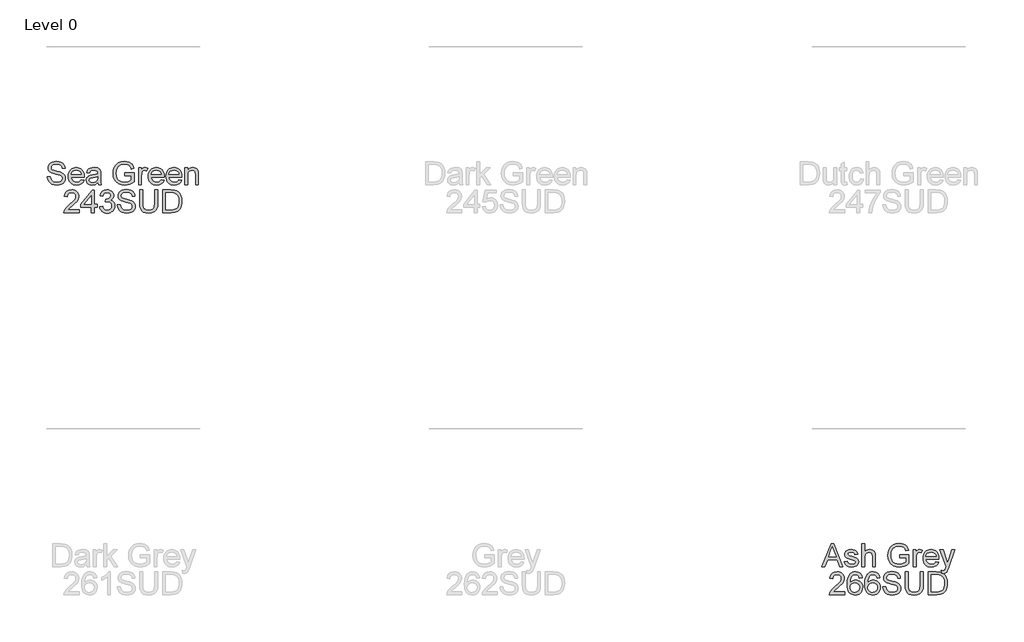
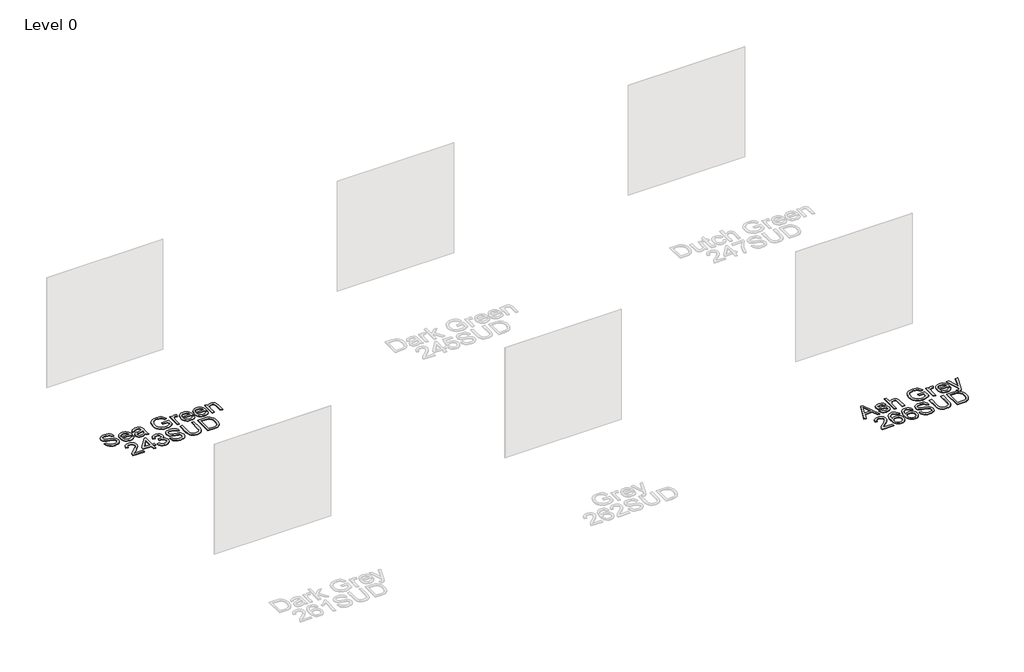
# One storey, part 21 of 37: 2 proxies.
"""IFC4 building model written with IfcOpenShell, lengths in millimetres."""

from ifc_helpers import new_model, si_unit, origin, origin_with_axes, place, context, project, spatial, polyline, outline, extrude, element, save

model = new_model("IFC4")

# Units and contexts
model_context = context("Model", 3, world=origin())
ifc_project = project(units=[si_unit("LENGTHUNIT", "METRE", prefix="MILLI")], contexts=[model_context])

# Site, building, storey
site = spatial("IfcSite", under=ifc_project)
building = spatial("IfcBuilding", under=site)
storey = spatial("IfcBuildingStorey", under=building, Name="Level 0", Elevation=0.0)

# Proxies
placement = place(None, origin())
element("IfcBuildingElementProxy", 1, Name="300mm Arial", ObjectType="300mm Arial", at=placement, inside=storey, context=model_context, shape_type="SweptSolid", body=[
    extrude(outline(polyline([(-439.5248593, -21869.2649241), (-401.853743, -21869.2649241), (-397.5311296, -21890.1698185), (-389.7136372, -21906.9728286), (-377.5183491, -21920.308551), (-360.0623484, -21930.8115819), (-338.7251927, -21937.6265959), (-314.8864394, -21939.8982672), (-293.8987716, -21938.1784189), (-275.5230659, -21933.0188739), (-260.6330421, -21924.8518936), (-250.10242, -21914.1097394), (-243.8392291, -21901.7764955), (-241.7514987, -21888.8362463), (-243.3149972, -21876.2270909), (-248.0054927, -21865.3285868), (-257.5336363, -21856.0303694), (-273.6100795, -21848.222074), (-328.461285, -21833.837888), (-364.4677353, -21824.3189414), (-387.5063452, -21815.2598472), (-406.2591299, -21802.5863125), (-419.548867, -21787.2272392), (-427.467527, -21769.5137211), (-430.1070803, -21749.7768521), (-426.8421276, -21727.7131294), (-417.0472694, -21707.1393289), (-400.9800233, -21689.7017223), (-378.8979065, -21677.0465817), (-352.3920088, -21669.3486509), (-323.0534197, -21666.782674), (-291.2684153, -21669.4682126), (-263.4565365, -21677.5248283), (-240.6110646, -21690.7869742), (-223.725281, -21709.0891034), (-213.038309, -21731.2907818), (-208.789272, -21756.2515752), (-246.4603883, -21756.2515752), (-253.3765698, -21733.7739853), (-267.797544, -21717.5503893), (-290.3303162, -21707.7279401), (-321.5818917, -21704.4537903), (-353.5692312, -21707.6911519), (-375.5133922, -21717.4032365), (-388.205321, -21731.695452), (-392.435964, -21748.6732061), (-389.4377257, -21763.1493626), (-380.4430109, -21774.7928278), (-359.1794316, -21785.2038882), (-318.9331413, -21795.8356779), (-277.3992641, -21805.9340387), (-252.2729238, -21814.7448125), (-230.7978123, -21828.4116286), (-215.8158181, -21845.2790181), (-207.0142413, -21865.1630399), (-204.0803824, -21887.8797531), (-207.4556997, -21911.102304), (-217.5816517, -21932.9452975), (-234.0443709, -21951.7440675), (-256.4299903, -21965.8339479), (-283.3497553, -21974.6355246), (-313.4149114, -21977.5693835), (-350.3226726, -21974.4055984), (-380.7005283, -21964.9142429), (-404.8979665, -21949.0585289), (-423.2644752, -21926.8016682), (-435.0550931, -21899.6887651), (-439.5248593, -21869.2649241)])), origin_with_axes(), (0.0, 0.0, 1.0), 10.0),
    extrude(outline(polyline([(2.6692989, -21906.9360404), (39.6046512, -21911.64493), (26.29652, -21939.4752029), (5.0605318, -21960.2789297), (-23.6250667, -21973.2467701), (-59.2820291, -21977.5693835), (-82.6563314, -21975.7046817), (-103.4830508, -21970.1105761), (-121.7621875, -21960.7870668), (-137.4937413, -21947.7341537), (-150.1442834, -21931.3151204), (-159.1803849, -21911.8932503), (-164.6020458, -21889.4685435), (-166.4092661, -21864.0409998), (-164.5836517, -21837.7512327), (-159.1068085, -21814.5792656), (-149.9787365, -21794.5250983), (-137.1994357, -21777.5887309), (-121.5092686, -21764.133447), (-103.6485977, -21754.5225298), (-83.6174231, -21748.7559796), (-61.4157447, -21746.8337961), (-39.9291369, -21748.751381), (-20.4980698, -21754.5041357), (-3.1225433, -21764.0920602), (12.1974425, -21777.5151545), (24.7031311, -21794.4147337), (33.6357658, -21814.4321128), (38.9953466, -21837.5672917), (40.7818736, -21863.8202706), (40.5611444, -21873.9738137), (-128.7381498, -21873.9738137), (-122.2174415, -21902.1719686), (-107.0699003, -21922.902119), (-85.2085127, -21935.6492302), (-58.5462651, -21939.8982672), (-38.4966964, -21937.9300985), (-21.6109128, -21932.0255925), (-7.8889144, -21921.8168672), (2.6692989, -21906.9360404)]), holes=[polyline([(-128.7381498, -21836.3026974), (3.1107573, -21836.3026974), (-1.9844084, -21816.4002814), (-11.9724045, -21802.1632482), (-33.9349597, -21788.9194964), (-61.5628975, -21784.5049125), (-86.9559522, -21788.0273826), (-107.9528171, -21798.5947929), (-122.5485352, -21815.0667092), (-128.7381498, -21836.3026974)])]), origin_with_axes(), (0.0, 0.0, 1.0), 10.0),
    extrude(outline(polyline([(219.719676, -21944.6071568), (201.7210494, -21960.0398064), (183.1889939, -21970.1381672), (163.7004452, -21975.7115794), (142.832339, -21977.5693835), (111.3508373, -21973.0996173), (88.1282863, -21959.6903186), (73.8084797, -21939.3280501), (69.0352108, -21913.9993748), (70.8378326, -21898.3827841), (76.2456979, -21884.2009331), (84.5874221, -21872.0608273), (95.1916206, -21862.5694718), (121.5687597, -21850.2086368), (154.1631045, -21844.5432541), (192.6803494, -21838.5835657), (219.4989468, -21831.5938078), (219.719676, -21823.2060983), (217.1261079, -21806.3938912), (209.3454038, -21795.3942195), (191.9445854, -21787.2272392), (167.7011619, -21784.5049125), (145.2603602, -21786.3167313), (129.5885872, -21791.7521878), (118.9016152, -21801.8045633), (111.4152166, -21817.4671392), (73.7441003, -21812.7582497), (80.2832028, -21792.156858), (90.0412727, -21775.9700502), (103.928818, -21763.590821), (122.8563467, -21754.4121652), (146.0053212, -21748.7283884), (172.5572042, -21746.8337961), (198.0238353, -21748.5076592), (218.2113598, -21753.5292485), (233.4324774, -21761.0800264), (243.9998877, -21770.3414556), (251.0080397, -21781.7917827), (255.5513823, -21795.9092543), (257.3907923, -21828.8714811), (257.3907923, -21875.7396473), (259.3037787, -21941.1858542), (266.8085714, -21972.860494), (229.1374551, -21972.860494), (219.719676, -21944.6071568)]), holes=[polyline([(219.719676, -21869.2649241), (158.9455704, -21880.8164188), (126.5351666, -21886.9232599), (111.856675, -21896.8560738), (106.7063271, -21911.3506244), (109.5114273, -21922.5526311), (117.9267279, -21931.7312869), (131.768288, -21937.8565221), (150.8521665, -21939.8982672), (171.0856763, -21937.64499), (188.9647412, -21930.8851583), (203.4592918, -21920.9247533), (213.5392585, -21909.069756), (218.0090247, -21896.8560738), (219.4989468, -21879.933502), (219.719676, -21869.2649241)])]), origin_with_axes(), (0.0, 0.0, 1.0), 10.0),
    extrude(outline(polyline([(572.8863914, -21855.1382555), (572.8863914, -21817.4671392), (695.3175194, -21817.4671392), (695.3175194, -21930.1126061), (665.565063, -21950.8059684), (634.8745076, -21965.6500069), (603.3194294, -21974.5895394), (570.973405, -21977.5693835), (528.7129608, -21972.8329028), (490.5176127, -21958.6234608), (458.7877906, -21935.437698), (435.9239246, -21903.7722553), (422.1007586, -21865.7884393), (417.4930366, -21823.6475567), (422.0823645, -21781.2031715), (435.8503482, -21741.7202364), (458.2267705, -21708.6016598), (488.6414145, -21685.2503502), (525.6871314, -21671.399593), (567.9567726, -21666.782674), (598.9876189, -21669.4590155), (626.8914683, -21677.4880401), (650.3899307, -21690.2903335), (668.2046163, -21707.2864817), (681.3839888, -21729.295022), (690.9765118, -21757.134492), (656.2484515, -21766.9201531), (648.4953384, -21747.0637224), (639.0683623, -21732.0817281), (626.5971627, -21720.7877509), (609.7113791, -21711.9953712), (589.5790369, -21706.3391855), (567.3681615, -21704.4537903), (541.3681014, -21706.4863383), (519.1388319, -21712.5839824), (500.7631262, -21721.9833674), (486.3237579, -21733.9211381), (466.9363768, -21762.9470275), (458.1072089, -21791.3843058), (455.1641529, -21822.1024524), (458.7050171, -21858.1272967), (469.3276097, -21887.7693885), (486.710034, -21910.8171955), (510.5303932, -21927.0591856), (538.4066514, -21936.6884968), (567.9567726, -21939.8982672), (594.0488032, -21937.4794431), (619.4970402, -21930.2229707), (641.597551, -21920.2257775), (657.6464031, -21909.5847908), (657.6464031, -21855.1382555), (572.8863914, -21855.1382555)])), origin_with_axes(), (0.0, 0.0, 1.0), 10.0),
    extrude(outline(polyline([(751.8241938, -21972.860494), (751.8241938, -21751.5426857), (784.7864206, -21751.5426857), (784.7864206, -21784.2841833), (796.9633146, -21765.3014723), (808.1837155, -21754.1178596), (819.4409046, -21748.654812), (831.7281632, -21746.8337961), (850.4901449, -21749.7400639), (869.5464323, -21758.4588672), (856.9648681, -21792.2304343), (843.7211162, -21786.4362929), (830.4773644, -21784.5049125), (819.2293724, -21786.3627165), (809.1769969, -21791.9361288), (801.0560018, -21800.8020848), (795.6021513, -21812.5375205), (791.0220204, -21833.5803706), (789.4953101, -21856.5362071), (789.4953101, -21972.860494), (751.8241938, -21972.860494)])), origin_with_axes(), (0.0, 0.0, 1.0), 10.0),
    extrude(outline(polyline([(1048.0427764, -21906.9360404), (1084.9781287, -21911.64493), (1071.6699975, -21939.4752029), (1050.4340093, -21960.2789297), (1021.7484107, -21973.2467701), (986.0914484, -21977.5693835), (962.7171461, -21975.7046817), (941.8904266, -21970.1105761), (923.61129, -21960.7870668), (907.8797362, -21947.7341537), (895.2291941, -21931.3151204), (886.1930926, -21911.8932503), (880.7714317, -21889.4685435), (878.9642114, -21864.0409998), (880.7898258, -21837.7512327), (886.266669, -21814.5792656), (895.394741, -21794.5250983), (908.1740418, -21777.5887309), (923.8642089, -21764.133447), (941.7248797, -21754.5225298), (961.7560544, -21748.7559796), (983.9577328, -21746.8337961), (1005.4443406, -21748.751381), (1024.8754077, -21754.5041357), (1042.2509342, -21764.0920602), (1057.57092, -21777.5151545), (1070.0766086, -21794.4147337), (1079.0092433, -21814.4321128), (1084.3688241, -21837.5672917), (1086.1553511, -21863.8202706), (1085.9346219, -21873.9738137), (916.6353277, -21873.9738137), (923.156036, -21902.1719686), (938.3035772, -21922.902119), (960.1649648, -21935.6492302), (986.8272124, -21939.8982672), (1006.8767811, -21937.9300985), (1023.7625647, -21932.0255925), (1037.4845631, -21921.8168672), (1048.0427764, -21906.9360404)]), holes=[polyline([(916.6353277, -21836.3026974), (1048.4842347, -21836.3026974), (1043.3890691, -21816.4002814), (1033.4010729, -21802.1632482), (1011.4385178, -21788.9194964), (983.81058, -21784.5049125), (958.4175253, -21788.0273826), (937.4206604, -21798.5947929), (922.8249422, -21815.0667092), (916.6353277, -21836.3026974)])]), origin_with_axes(), (0.0, 0.0, 1.0), 10.0),
    extrude(outline(polyline([(1278.7783637, -21906.9360404), (1315.713716, -21911.64493), (1302.4055849, -21939.4752029), (1281.1695967, -21960.2789297), (1252.4839981, -21973.2467701), (1216.8270357, -21977.5693835), (1193.4527335, -21975.7046817), (1172.626014, -21970.1105761), (1154.3468774, -21960.7870668), (1138.6153236, -21947.7341537), (1125.9647815, -21931.3151204), (1116.92868, -21911.8932503), (1111.507019, -21889.4685435), (1109.6997987, -21864.0409998), (1111.5254131, -21837.7512327), (1117.0022564, -21814.5792656), (1126.1303284, -21794.5250983), (1138.9096292, -21777.5887309), (1154.5997963, -21764.133447), (1172.4604671, -21754.5225298), (1192.4916418, -21748.7559796), (1214.6933202, -21746.8337961), (1236.179928, -21748.751381), (1255.6109951, -21754.5041357), (1272.9865216, -21764.0920602), (1288.3065074, -21777.5151545), (1300.812196, -21794.4147337), (1309.7448307, -21814.4321128), (1315.1044115, -21837.5672917), (1316.8909384, -21863.8202706), (1316.6702092, -21873.9738137), (1147.3709151, -21873.9738137), (1153.8916234, -21902.1719686), (1169.0391646, -21922.902119), (1190.9005521, -21935.6492302), (1217.5627997, -21939.8982672), (1237.6123685, -21937.9300985), (1254.498152, -21932.0255925), (1268.2201505, -21921.8168672), (1278.7783637, -21906.9360404)]), holes=[polyline([(1147.3709151, -21836.3026974), (1279.2198221, -21836.3026974), (1274.1246565, -21816.4002814), (1264.1366603, -21802.1632482), (1242.1741052, -21788.9194964), (1214.5461674, -21784.5049125), (1189.1531127, -21788.0273826), (1168.1562478, -21798.5947929), (1153.5605296, -21815.0667092), (1147.3709151, -21836.3026974)])]), origin_with_axes(), (0.0, 0.0, 1.0), 10.0),
    extrude(outline(polyline([(1354.5620547, -21972.860494), (1354.5620547, -21751.5426857), (1392.233171, -21751.5426857), (1392.233171, -21782.4447733), (1405.320573, -21766.8649708), (1421.0383313, -21755.7365404), (1439.3864458, -21749.0594822), (1460.3649165, -21746.8337961), (1478.9337603, -21748.6272209), (1495.9391055, -21754.0074951), (1510.1209564, -21762.303234), (1520.2193172, -21772.8430532), (1531.5132944, -21800.5445674), (1533.4998572, -21836.964885), (1533.4998572, -21972.860494), (1495.8287409, -21972.860494), (1495.8287409, -21842.0416565), (1491.4877333, -21808.7115477), (1485.4820598, -21798.7879309), (1476.1470541, -21791.0900002), (1464.1816922, -21786.1511844), (1450.2849499, -21784.5049125), (1428.2212272, -21788.2021265), (1409.4132602, -21799.2937687), (1401.8969712, -21808.3482643), (1396.5281933, -21820.7228949), (1392.233171, -21855.4325611), (1392.233171, -21972.860494), (1354.5620547, -21972.860494)])), origin_with_axes(), (0.0, 0.0, 1.0), 10.0),
    extrude(outline(polyline([(-25.14258, -22301.1138312), (-25.14258, -22338.7849475), (-222.9159406, -22338.7849475), (-218.8692386, -22312.8124787), (-209.5802183, -22292.5145896), (-195.9869785, -22272.8237058), (-176.3236859, -22252.213117), (-148.8245068, -22229.156113), (-108.1735463, -22193.0484951), (-83.78297, -22166.3954446), (-71.5876819, -22144.7639833), (-67.5225858, -22123.7211331), (-71.3577556, -22104.8579838), (-82.863265, -22089.1770138), (-100.5491919, -22078.6096035), (-122.9256143, -22075.0871334), (-146.4240767, -22078.52683), (-164.6802207, -22088.84592), (-176.4616416, -22105.2350629), (-180.5359347, -22126.8849183), (-218.207051, -22122.1760288), (-209.0743805, -22085.7373171), (-200.5280219, -22071.2013798), (-189.3283144, -22059.1210548), (-175.7327754, -22049.6251008), (-159.9989224, -22042.8422765), (-122.1162739, -22037.4160171), (-101.9264502, -22038.9243332), (-83.957714, -22043.4492818), (-68.2100653, -22050.9908627), (-54.6835042, -22061.549076), (-43.819489, -22074.3421723), (-36.0594782, -22088.5884026), (-31.4034717, -22104.2877667), (-29.8514695, -22121.4402648), (-31.5253326, -22139.4572855), (-36.5469218, -22157.1616065), (-45.4588632, -22175.1694302), (-58.8037825, -22194.0969588), (-80.0765589, -22216.6941104), (-112.7720712, -22245.7108027), (-156.1085703, -22281.9471793), (-173.1047184, -22301.1138312), (-25.14258, -22301.1138312)])), origin_with_axes(), (0.0, 0.0, 1.0), 10.0),
    extrude(outline(polyline([(134.9596643, -22338.7849475), (134.9596643, -22268.1516044), (-1.5981323, -22268.1516044), (-1.5981323, -22230.4804881), (144.3774434, -22042.1249066), (172.6307806, -22042.1249066), (172.6307806, -22230.4804881), (210.3018969, -22230.4804881), (210.3018969, -22268.1516044), (172.6307806, -22268.1516044), (172.6307806, -22338.7849475), (134.9596643, -22338.7849475)]), holes=[polyline([(134.9596643, -22230.4804881), (134.9596643, -22114.0826249), (44.7549991, -22230.4804881), (134.9596643, -22230.4804881)])]), origin_with_axes(), (0.0, 0.0, 1.0), 10.0),
    extrude(outline(polyline([(243.2641237, -22258.7338254), (280.93524, -22254.0249358), (289.3689348, -22277.6981422), (301.7205727, -22293.6826149), (318.5971593, -22302.7876943), (340.6056996, -22305.8227207), (366.4310157, -22301.6472601), (386.3702198, -22289.1208782), (399.117331, -22270.4324728), (403.366368, -22247.7709419), (399.1541192, -22226.2590422), (386.5173726, -22208.8122386), (367.3875089, -22197.2515469), (343.6959084, -22193.397983), (317.2819811, -22197.5182614), (321.4758359, -22159.8471451), (327.5091006, -22160.2886035), (350.078661, -22157.5846708), (370.2569884, -22149.4728728), (384.4940217, -22135.7508744), (389.2396994, -22116.2163404), (385.8000027, -22099.9467592), (375.4809128, -22086.7489926), (359.7355634, -22078.0025982), (340.0170884, -22075.0871334), (320.2618253, -22078.0301893), (304.1118057, -22086.8593572), (292.3211878, -22101.574637), (285.6441295, -22122.1760288), (247.9730132, -22117.4671392), (259.0646554, -22083.6403898), (278.8015244, -22058.3852908), (305.8040629, -22042.6583355), (338.6927133, -22037.4160171), (362.3751167, -22040.0003881), (384.1261397, -22047.7535011), (402.4650571, -22059.9855775), (415.911144, -22076.0068384), (424.1608978, -22094.4653175), (426.9108157, -22114.0090485), (424.2988535, -22132.2192072), (416.462967, -22148.7371088), (403.5135208, -22162.8085951), (385.5608794, -22173.6795081), (409.1421153, -22183.2076518), (426.6165101, -22199.4312477), (437.4322408, -22221.4673793), (441.0374843, -22248.4331295), (439.2348625, -22267.5445992), (433.8269972, -22285.1477526), (424.8138883, -22301.2425899), (412.1955359, -22315.829111), (396.822667, -22327.9324287), (379.5460088, -22336.5776555), (360.3655613, -22341.7647917), (339.2813244, -22343.4938371), (320.2250371, -22342.0177105), (302.8610069, -22337.589331), (287.1892339, -22330.2086985), (273.2097181, -22319.875813), (261.488078, -22307.1976797), (252.5899323, -22292.781304), (246.5152808, -22276.6266859), (243.2641237, -22258.7338254)])), origin_with_axes(), (0.0, 0.0, 1.0), 10.0),
    extrude(outline(polyline([(473.9997111, -22235.1893777), (511.6708274, -22235.1893777), (515.9934408, -22256.0942721), (523.8109332, -22272.8972822), (536.0062214, -22286.2330045), (553.462222, -22296.7360355), (574.7993778, -22303.5510494), (598.638131, -22305.8227207), (619.6257989, -22304.1028724), (638.0015045, -22298.9433274), (652.8915283, -22290.7763471), (663.4221504, -22280.0341929), (669.6853414, -22267.700949), (671.7730717, -22254.7606998), (670.2095732, -22242.1515444), (665.5190778, -22231.2530403), (655.9909341, -22221.9548229), (639.9144909, -22214.1465276), (585.0632854, -22199.7623415), (549.0568351, -22190.2433949), (526.0182252, -22181.1843008), (507.2654405, -22168.510766), (493.9757034, -22153.1516928), (486.0570435, -22135.4381747), (483.4174902, -22115.7013056), (486.6824429, -22093.637583), (496.477301, -22073.0637824), (512.5445471, -22055.6261758), (534.6266639, -22042.9710352), (561.1325616, -22035.2731044), (590.4711508, -22032.7071275), (622.2561551, -22035.3926661), (650.068034, -22043.4492818), (672.9135059, -22056.7114277), (689.7992895, -22075.013557), (700.4862614, -22097.2152354), (704.7352985, -22122.1760288), (667.0641821, -22122.1760288), (660.1480006, -22099.6984389), (645.7270264, -22083.4748429), (623.1942542, -22073.6523936), (591.9426787, -22070.3782438), (559.9553393, -22073.6156054), (538.0111782, -22083.3276901), (525.3192494, -22097.6199056), (521.0886065, -22114.5976597), (524.0868447, -22129.0738162), (533.0815595, -22140.7172813), (554.3451388, -22151.1283418), (594.5914291, -22161.7601314), (636.1253064, -22171.8584922), (661.2516466, -22180.669266), (682.7267581, -22194.3360821), (697.7087523, -22211.2034716), (706.5103291, -22231.0874934), (709.444188, -22253.8042066), (706.0688707, -22277.0267576), (695.9429188, -22298.869751), (679.4801995, -22317.668521), (657.0945801, -22331.7584014), (630.1748151, -22340.5599781), (600.109659, -22343.4938371), (563.2018979, -22340.3300519), (532.8240421, -22330.8386964), (508.6266039, -22314.9829824), (490.2600953, -22292.7261217), (478.4694773, -22265.6132187), (473.9997111, -22235.1893777)])), origin_with_axes(), (0.0, 0.0, 1.0), 10.0),
    extrude(outline(polyline([(963.7242231, -22037.4160171), (1001.3953394, -22037.4160171), (1001.3953394, -22211.277048), (998.8385595, -22251.9923878), (991.1682199, -22283.3451308), (976.8392162, -22307.533372), (954.306444, -22326.7552063), (923.514721, -22339.3091794), (884.4088649, -22343.4938371), (846.1583345, -22339.8518053), (815.5781436, -22328.92571), (792.6590953, -22311.0926303), (777.3919925, -22286.7296452), (768.811145, -22254.052527), (765.9508625, -22211.277048), (765.9508625, -22037.4160171), (803.6219788, -22037.4160171), (803.6219788, -22209.9526728), (805.4797828, -22243.8070134), (811.0531951, -22267.3790523), (821.1515558, -22283.7038158), (836.5842055, -22295.8163305), (856.7073507, -22303.3211232), (880.8771977, -22305.8227207), (919.1921075, -22300.8747079), (933.5349068, -22294.6896919), (944.6679357, -22286.0306694), (953.0050614, -22273.8537754), (958.9601512, -22257.1151446), (963.7242231, -22209.9526728), (963.7242231, -22037.4160171)])), origin_with_axes(), (0.0, 0.0, 1.0), 10.0),
    extrude(outline(polyline([(1067.3197929, -22338.7849475), (1067.3197929, -22037.4160171), (1171.2832447, -22037.4160171), (1225.0675924, -22041.7570246), (1249.0902867, -22050.12634), (1269.3605847, -22063.3149095), (1290.2010997, -22086.270746), (1305.0451382, -22114.8183889), (1313.9294884, -22148.406015), (1316.8909384, -22186.4818015), (1314.8859816, -22218.8278259), (1308.8711109, -22247.2926953), (1299.7108493, -22271.5269217), (1288.2697192, -22291.1810173), (1275.0995438, -22306.6964405), (1260.752146, -22318.5146496), (1244.2802296, -22327.2794381), (1224.7364986, -22333.6345996), (1176.2864399, -22338.7849475), (1067.3197929, -22338.7849475)]), holes=[polyline([(1104.9909092, -22301.1138312), (1171.6511267, -22301.1138312), (1199.2238823, -22299.7526678), (1220.1379737, -22295.6691777), (1235.9201113, -22289.1024841), (1248.0970053, -22280.2917103), (1261.1844073, -22263.9853408), (1271.0160536, -22242.8781114), (1277.16888, -22216.8780514), (1279.2198221, -22185.8931903), (1275.2007113, -22144.8375597), (1263.1433789, -22114.5240833), (1245.3286933, -22093.7019623), (1224.0375228, -22081.1203981), (1202.3692733, -22076.5954496), (1170.6210571, -22075.0871334), (1104.9909092, -22075.0871334), (1104.9909092, -22301.1138312)])]), origin_with_axes(), (0.0, 0.0, 1.0), 10.0),
])
element("IfcBuildingElementProxy", 2, Name="300mm Arial", ObjectType="300mm Arial", at=placement, inside=storey, context=model_context, shape_type="SweptSolid", body=[
    extrude(outline(polyline([(9678.4181083, -26962.860494), (9798.7155207, -26661.4915635), (9830.7948307, -26661.4915635), (9951.0922431, -26962.860494), (9911.2874113, -26962.860494), (9876.7800801, -26868.6827032), (9752.6566949, -26868.6827032), (9718.2229402, -26962.860494), (9678.4181083, -26962.860494)]), holes=[polyline([(9766.489058, -26831.0115869), (9863.0212935, -26831.0115869), (9835.8716022, -26756.9201531), (9814.7551757, -26699.1626798), (9795.993194, -26750.44543), (9766.489058, -26831.0115869)])]), origin_with_axes(), (0.0, 0.0, 1.0), 10.0),
    extrude(outline(polyline([(9972.5029753, -26896.9360404), (10010.1740916, -26892.2271509), (10016.1153858, -26908.3403823), (10027.6116981, -26920.1861825), (10044.736605, -26927.470246), (10067.5636828, -26929.8982672), (10090.1148491, -26927.6725811), (10105.9705631, -26920.9955229), (10115.351554, -26911.3202265), (10118.4785509, -26900.0998256), (10115.3331599, -26890.4981055), (10105.8969867, -26883.1772538), (10067.1222244, -26872.4350996), (10010.3948208, -26854.0042116), (9996.0382259, -26844.7427824), (9985.6363625, -26832.4831149), (9979.3179892, -26818.0069584), (9977.2118648, -26802.0960621), (9978.904122, -26787.5003439), (9983.9808935, -26774.0266659), (9991.9823269, -26762.2084568), (10002.4485697, -26752.5791455), (10026.3976875, -26741.4323211), (10058.8080913, -26736.8337961), (10083.3274263, -26738.6824032), (10104.6461879, -26744.2282242), (10121.7894889, -26752.9286334), (10133.7824419, -26764.2410048), (10141.728693, -26779.0022698), (10146.7318882, -26798.0493601), (10109.0607719, -26802.7582497), (10104.3058971, -26790.9032524), (10094.8973151, -26781.972917), (10080.7430553, -26776.3719136), (10061.7511473, -26774.5049125), (10040.119686, -26776.2891401), (10025.6987118, -26781.6418232), (10017.5869138, -26789.3673451), (10014.8829811, -26798.2700893), (10019.3711414, -26809.2329728), (10033.4242337, -26817.5471059), (10065.8714256, -26825.5669334), (10121.1640895, -26843.2988455), (10135.7690047, -26851.7785255), (10146.8422528, -26863.3852025), (10153.8228136, -26878.1556646), (10156.1496672, -26896.1267001), (10153.4181434, -26914.7047408), (10145.223572, -26932.1791356), (10131.8786526, -26947.1795239), (10113.696085, -26958.3355454), (10091.7335299, -26965.260924), (10067.048648, -26967.5693835), (10029.064832, -26963.1180114), (10001.3449237, -26949.763895), (9982.8404593, -26927.654187), (9972.5029753, -26896.9360404)])), origin_with_axes(), (0.0, 0.0, 1.0), 10.0),
    extrude(outline(polyline([(10198.5296731, -26962.860494), (10198.5296731, -26661.4915635), (10236.2007894, -26661.4915635), (10236.2007894, -26772.2976205), (10250.0377509, -26756.7821973), (10265.5761667, -26745.6997522), (10282.8160367, -26739.0502852), (10301.7573609, -26736.8337961), (10324.5108623, -26739.2526203), (10344.0637904, -26746.5090926), (10359.4596519, -26758.0329961), (10369.7419536, -26773.2541137), (10375.5360951, -26794.1682051), (10377.4674755, -26822.7710302), (10377.4674755, -26962.860494), (10339.7963592, -26962.860494), (10339.7963592, -26826.6705794), (10336.798121, -26803.0893435), (10327.8034062, -26786.9393239), (10313.3088556, -26777.6135153), (10293.8111098, -26774.5049125), (10277.8910165, -26776.6018398), (10262.9458104, -26782.8926219), (10250.5665813, -26792.7702535), (10242.3444187, -26805.6277292), (10237.7366967, -26822.7158479), (10236.2007894, -26845.2854083), (10236.2007894, -26962.860494), (10198.5296731, -26962.860494)])), origin_with_axes(), (0.0, 0.0, 1.0), 10.0),
    extrude(outline(polyline([(10692.9630746, -26845.1382555), (10692.9630746, -26807.4671392), (10815.3942026, -26807.4671392), (10815.3942026, -26920.1126061), (10785.6417462, -26940.8059684), (10754.9511908, -26955.6500069), (10723.3961127, -26964.5895394), (10691.0500882, -26967.5693835), (10648.789644, -26962.8329028), (10610.5942959, -26948.6234608), (10578.8644738, -26925.437698), (10556.0006078, -26893.7722553), (10542.1774418, -26855.7884393), (10537.5697198, -26813.6475567), (10542.1590477, -26771.2031715), (10555.9270314, -26731.7202364), (10578.3034538, -26698.6016598), (10608.7180977, -26675.2503502), (10645.7638146, -26661.399593), (10688.0334559, -26656.782674), (10719.0643022, -26659.4590155), (10746.9681515, -26667.4880401), (10770.4666139, -26680.2903335), (10788.2812996, -26697.2864817), (10801.460672, -26719.295022), (10811.0531951, -26747.134492), (10776.3251347, -26756.9201531), (10768.5720217, -26737.0637224), (10759.1450455, -26722.0817281), (10746.6738459, -26710.7877509), (10729.7880623, -26701.9953712), (10709.6557201, -26696.3391855), (10687.4448447, -26694.4537903), (10661.4447847, -26696.4863383), (10639.2155151, -26702.5839824), (10620.8398095, -26711.9833674), (10606.4004411, -26723.9211381), (10587.01306, -26752.9470275), (10578.1838921, -26781.3843058), (10575.2408362, -26812.1024524), (10578.7817004, -26848.1272967), (10589.404293, -26877.7693885), (10606.7867172, -26900.8171955), (10630.6070764, -26917.0591856), (10658.4833346, -26926.6884968), (10688.0334559, -26929.8982672), (10714.1254864, -26927.4794431), (10739.5737234, -26920.2229707), (10761.6742343, -26910.2257775), (10777.7230863, -26899.5847908), (10777.7230863, -26845.1382555), (10692.9630746, -26845.1382555)])), origin_with_axes(), (0.0, 0.0, 1.0), 10.0),
    extrude(outline(polyline([(10871.9008771, -26962.860494), (10871.9008771, -26741.5426857), (10904.8631038, -26741.5426857), (10904.8631038, -26774.2841833), (10917.0399979, -26755.3014723), (10928.2603987, -26744.1178596), (10939.5175878, -26738.654812), (10951.8048464, -26736.8337961), (10970.5668282, -26739.7400639), (10989.6231155, -26748.4588672), (10977.0415513, -26782.2304343), (10963.7977995, -26776.4362929), (10950.5540476, -26774.5049125), (10939.3060556, -26776.3627165), (10929.2536801, -26781.9361288), (10921.1326851, -26790.8020848), (10915.6788345, -26802.5375205), (10911.0987036, -26823.5803706), (10909.5719934, -26846.5362071), (10909.5719934, -26962.860494), (10871.9008771, -26962.860494)])), origin_with_axes(), (0.0, 0.0, 1.0), 10.0),
    extrude(outline(polyline([(11168.1194596, -26896.9360404), (11205.0548119, -26901.64493), (11191.7466807, -26929.4752029), (11170.5106925, -26950.2789297), (11141.825094, -26963.2467701), (11106.1681316, -26967.5693835), (11082.7938293, -26965.7046817), (11061.9671099, -26960.1105761), (11043.6879732, -26950.7870668), (11027.9564194, -26937.7341537), (11015.3058773, -26921.3151204), (11006.2697758, -26901.8932503), (11000.8481149, -26879.4685435), (10999.0408946, -26854.0409998), (11000.866509, -26827.7512327), (11006.3433522, -26804.5792656), (11015.4714242, -26784.5250983), (11028.250725, -26767.5887309), (11043.9408921, -26754.133447), (11061.801563, -26744.5225298), (11081.8327376, -26738.7559796), (11104.034416, -26736.8337961), (11125.5210238, -26738.751381), (11144.9520909, -26744.5041357), (11162.3276174, -26754.0920602), (11177.6476033, -26767.5151545), (11190.1532918, -26784.4147337), (11199.0859265, -26804.4321128), (11204.4455073, -26827.5672917), (11206.2320343, -26853.8202706), (11206.0113051, -26863.9738137), (11036.7120109, -26863.9738137), (11043.2327193, -26892.1719686), (11058.3802604, -26912.902119), (11080.241648, -26925.6492302), (11106.9038956, -26929.8982672), (11126.9534643, -26927.9300985), (11143.8392479, -26922.0255925), (11157.5612463, -26911.8168672), (11168.1194596, -26896.9360404)]), holes=[polyline([(11036.7120109, -26826.3026974), (11168.560918, -26826.3026974), (11163.4657523, -26806.4002814), (11153.4777562, -26792.1632482), (11131.5152011, -26778.9194964), (11103.8872632, -26774.5049125), (11078.4942085, -26778.0273826), (11057.4973436, -26788.5947929), (11042.9016255, -26805.0667092), (11036.7120109, -26826.3026974)])]), origin_with_axes(), (0.0, 0.0, 1.0), 10.0),
    extrude(outline(polyline([(11243.9031506, -27047.6205057), (11239.194261, -27011.3473409), (11258.3241248, -27014.6582789), (11276.2031898, -27010.5012124), (11287.1660732, -26998.9129295), (11297.4667691, -26971.1746271), (11300.409825, -26962.0511536), (11220.3587029, -26741.5426857), (11260.0899584, -26741.5426857), (11302.5435406, -26864.4152721), (11317.3323968, -26913.5643066), (11332.121253, -26870.1542312), (11375.7520577, -26741.5426857), (11415.1890075, -26741.5426857), (11338.1545178, -26968.1579947), (11318.1417372, -27017.3070293), (11307.8962236, -27032.9971964), (11296.2895467, -27043.8681093), (11282.8066716, -27050.2140737), (11266.9325635, -27052.3293952), (11243.9031506, -27047.6205057)])), origin_with_axes(), (0.0, 0.0, 1.0), 10.0),
    extrude(outline(polyline([(9974.85742, -27291.1138312), (9974.85742, -27328.7849475), (9777.0840594, -27328.7849475), (9781.1307614, -27302.8124787), (9790.4197817, -27282.5145896), (9804.0130215, -27262.8237058), (9823.6763141, -27242.213117), (9851.1754932, -27219.156113), (9891.8264537, -27183.0484951), (9916.21703, -27156.3954446), (9928.4123181, -27134.7639833), (9932.4774142, -27113.7211331), (9928.6422444, -27094.8579838), (9917.136735, -27079.1770138), (9899.4508081, -27068.6096035), (9877.0743857, -27065.0871334), (9853.5759233, -27068.52683), (9835.3197793, -27078.84592), (9823.5383584, -27095.2350629), (9819.4640653, -27116.8849183), (9781.792949, -27112.1760288), (9790.9256195, -27075.7373171), (9799.4719781, -27061.2013798), (9810.6716856, -27049.1210548), (9824.2672246, -27039.6251008), (9840.0010776, -27032.8422765), (9877.8837261, -27027.4160171), (9898.0735498, -27028.9243332), (9916.042286, -27033.4492818), (9931.7899347, -27040.9908627), (9945.3164958, -27051.549076), (9956.180511, -27064.3421723), (9963.9405218, -27078.5884026), (9968.5965283, -27094.2877667), (9970.1485305, -27111.4402648), (9968.4746674, -27129.4572855), (9963.4530782, -27147.1616065), (9954.5411368, -27165.1694302), (9941.1962175, -27184.0969588), (9919.9234411, -27206.6941104), (9887.2279288, -27235.7108027), (9843.8914297, -27271.9471793), (9826.8952816, -27291.1138312), (9974.85742, -27291.1138312)])), origin_with_axes(), (0.0, 0.0, 1.0), 10.0),
    extrude(outline(polyline([(10205.5930074, -27107.4671392), (10167.9218911, -27112.1760288), (10161.8518382, -27093.5060175), (10153.6480697, -27080.7589064), (10136.559951, -27069.0050766), (10115.903377, -27065.0871334), (10098.392194, -27067.3680017), (10081.9110806, -27074.2106069), (10067.7568209, -27088.622384), (10056.1961292, -27108.4604206), (10048.3878338, -27136.5206198), (10045.4907631, -27175.5988847), (10060.6015161, -27157.9681401), (10078.7105073, -27145.5429257), (10098.8060612, -27138.1760888), (10119.8765025, -27135.7204764), (10137.9762967, -27137.3989381), (10154.6781393, -27142.4343229), (10169.9820303, -27150.8266309), (10183.8879697, -27162.5758621), (10195.4440629, -27176.9830407), (10203.6984151, -27193.349191), (10208.6510265, -27211.6743129), (10210.3018969, -27231.9584064), (10207.1932941, -27258.9333537), (10197.8674855, -27283.9401323), (10183.0970234, -27305.1485293), (10163.6544599, -27320.7283318), (10140.422712, -27330.3024607), (10114.2846962, -27333.4938371), (10091.8277997, -27331.3785156), (10071.5460054, -27325.0325512), (10053.4393135, -27314.4559438), (10037.5077238, -27299.6486935), (10024.5191901, -27279.9854009), (10015.241666, -27254.8406665), (10009.6751516, -27224.2144904), (10007.8196468, -27188.1068726), (10009.879786, -27147.6260575), (10016.0602035, -27113.0773396), (10026.3608993, -27084.4607189), (10040.7818736, -27061.7761954), (10056.4122598, -27046.7436174), (10074.5350466, -27036.0060617), (10095.1502339, -27029.5635282), (10118.2578217, -27027.4160171), (10151.312019, -27032.7319119), (10177.7811286, -27048.6795964), (10196.3223811, -27074.0082718), (10205.5930074, -27107.4671392)]), holes=[polyline([(10045.4907631, -27231.3697952), (10047.6704639, -27248.0624407), (10054.2095664, -27264.0009282), (10064.3631095, -27277.7045325), (10077.3861321, -27287.6925287), (10093.1038903, -27293.7901727), (10111.3416402, -27295.8227207), (10136.2012661, -27291.6104719), (10155.7449971, -27278.9737254), (10168.4093347, -27259.1080976), (10172.6307806, -27233.2092052), (10168.464517, -27208.3495793), (10155.9657263, -27189.3944595), (10136.0909015, -27177.3923095), (10109.7965359, -27173.3915928), (10084.9736982, -27177.3923095), (10064.2159567, -27189.3944595), (10050.1720615, -27207.8897269), (10045.4907631, -27231.3697952)])]), origin_with_axes(), (0.0, 0.0, 1.0), 10.0),
    extrude(outline(polyline([(10436.3285948, -27107.4671392), (10398.6574785, -27112.1760288), (10392.5874255, -27093.5060175), (10384.3836571, -27080.7589064), (10367.2955384, -27069.0050766), (10346.6389644, -27065.0871334), (10329.1277814, -27067.3680017), (10312.646668, -27074.2106069), (10298.4924082, -27088.622384), (10286.9317165, -27108.4604206), (10279.1234212, -27136.5206198), (10276.2263505, -27175.5988847), (10291.3371034, -27157.9681401), (10309.4460946, -27145.5429257), (10329.5416486, -27138.1760888), (10350.6120899, -27135.7204764), (10368.7118841, -27137.3989381), (10385.4137266, -27142.4343229), (10400.7176176, -27150.8266309), (10414.6235571, -27162.5758621), (10426.1796502, -27176.9830407), (10434.4340025, -27193.349191), (10439.3866139, -27211.6743129), (10441.0374843, -27231.9584064), (10437.9288815, -27258.9333537), (10428.6030729, -27283.9401323), (10413.8326108, -27305.1485293), (10394.3900473, -27320.7283318), (10371.1582993, -27330.3024607), (10345.0202836, -27333.4938371), (10322.563387, -27331.3785156), (10302.2815928, -27325.0325512), (10284.1749008, -27314.4559438), (10268.2433112, -27299.6486935), (10255.2547775, -27279.9854009), (10245.9772534, -27254.8406665), (10240.410739, -27224.2144904), (10238.5552342, -27188.1068726), (10240.6153733, -27147.6260575), (10246.7957909, -27113.0773396), (10257.0964867, -27084.4607189), (10271.5174609, -27061.7761954), (10287.1478472, -27046.7436174), (10305.270634, -27036.0060617), (10325.8858213, -27029.5635282), (10348.9934091, -27027.4160171), (10382.0476064, -27032.7319119), (10408.5167159, -27048.6795964), (10427.0579685, -27074.0082718), (10436.3285948, -27107.4671392)]), holes=[polyline([(10276.2263505, -27231.3697952), (10278.4060513, -27248.0624407), (10284.9451538, -27264.0009282), (10295.0986968, -27277.7045325), (10308.1217195, -27287.6925287), (10323.8394777, -27293.7901727), (10342.0772276, -27295.8227207), (10366.9368534, -27291.6104719), (10386.4805844, -27278.9737254), (10399.1449221, -27259.1080976), (10403.366368, -27233.2092052), (10399.2001044, -27208.3495793), (10386.7013136, -27189.3944595), (10366.8264888, -27177.3923095), (10340.5321232, -27173.3915928), (10315.7092856, -27177.3923095), (10294.951544, -27189.3944595), (10280.9076489, -27207.8897269), (10276.2263505, -27231.3697952)])]), origin_with_axes(), (0.0, 0.0, 1.0), 10.0),
    extrude(outline(polyline([(10473.9997111, -27225.1893777), (10511.6708274, -27225.1893777), (10515.9934408, -27246.0942721), (10523.8109332, -27262.8972822), (10536.0062214, -27276.2330045), (10553.462222, -27286.7360355), (10574.7993778, -27293.5510494), (10598.638131, -27295.8227207), (10619.6257989, -27294.1028724), (10638.0015045, -27288.9433274), (10652.8915283, -27280.7763471), (10663.4221504, -27270.0341929), (10669.6853414, -27257.700949), (10671.7730717, -27244.7606998), (10670.2095732, -27232.1515444), (10665.5190778, -27221.2530403), (10655.9909341, -27211.9548229), (10639.9144909, -27204.1465276), (10585.0632854, -27189.7623415), (10549.0568351, -27180.2433949), (10526.0182252, -27171.1843008), (10507.2654405, -27158.510766), (10493.9757034, -27143.1516928), (10486.0570435, -27125.4381747), (10483.4174902, -27105.7013056), (10486.6824429, -27083.637583), (10496.477301, -27063.0637824), (10512.5445471, -27045.6261758), (10534.6266639, -27032.9710352), (10561.1325616, -27025.2731044), (10590.4711508, -27022.7071275), (10622.2561551, -27025.3926661), (10650.068034, -27033.4492818), (10672.9135059, -27046.7114277), (10689.7992895, -27065.013557), (10700.4862614, -27087.2152354), (10704.7352985, -27112.1760288), (10667.0641821, -27112.1760288), (10660.1480006, -27089.6984389), (10645.7270264, -27073.4748429), (10623.1942542, -27063.6523936), (10591.9426787, -27060.3782438), (10559.9553393, -27063.6156054), (10538.0111782, -27073.3276901), (10525.3192494, -27087.6199056), (10521.0886065, -27104.5976597), (10524.0868447, -27119.0738162), (10533.0815595, -27130.7172813), (10554.3451388, -27141.1283418), (10594.5914291, -27151.7601314), (10636.1253064, -27161.8584922), (10661.2516466, -27170.669266), (10682.7267581, -27184.3360821), (10697.7087523, -27201.2034716), (10706.5103291, -27221.0874934), (10709.444188, -27243.8042066), (10706.0688707, -27267.0267576), (10695.9429188, -27288.869751), (10679.4801995, -27307.668521), (10657.0945801, -27321.7584014), (10630.1748151, -27330.5599781), (10600.109659, -27333.4938371), (10563.2018979, -27330.3300519), (10532.8240421, -27320.8386964), (10508.6266039, -27304.9829824), (10490.2600953, -27282.7261217), (10478.4694773, -27255.6132187), (10473.9997111, -27225.1893777)])), origin_with_axes(), (0.0, 0.0, 1.0), 10.0),
    extrude(outline(polyline([(10963.7242231, -27027.4160171), (11001.3953394, -27027.4160171), (11001.3953394, -27201.277048), (10998.8385595, -27241.9923878), (10991.1682199, -27273.3451308), (10976.8392162, -27297.533372), (10954.306444, -27316.7552063), (10923.514721, -27329.3091794), (10884.4088649, -27333.4938371), (10846.1583345, -27329.8518053), (10815.5781436, -27318.92571), (10792.6590953, -27301.0926303), (10777.3919925, -27276.7296452), (10768.811145, -27244.052527), (10765.9508625, -27201.277048), (10765.9508625, -27027.4160171), (10803.6219788, -27027.4160171), (10803.6219788, -27199.9526728), (10805.4797828, -27233.8070134), (10811.0531951, -27257.3790523), (10821.1515558, -27273.7038158), (10836.5842055, -27285.8163305), (10856.7073507, -27293.3211232), (10880.8771977, -27295.8227207), (10919.1921075, -27290.8747079), (10933.5349068, -27284.6896919), (10944.6679357, -27276.0306694), (10953.0050614, -27263.8537754), (10958.9601512, -27247.1151446), (10963.7242231, -27199.9526728), (10963.7242231, -27027.4160171)])), origin_with_axes(), (0.0, 0.0, 1.0), 10.0),
    extrude(outline(polyline([(11067.3197929, -27328.7849475), (11067.3197929, -27027.4160171), (11171.2832447, -27027.4160171), (11225.0675924, -27031.7570246), (11249.0902867, -27040.12634), (11269.3605847, -27053.3149095), (11290.2010997, -27076.270746), (11305.0451382, -27104.8183889), (11313.9294884, -27138.406015), (11316.8909384, -27176.4818015), (11314.8859816, -27208.8278259), (11308.8711109, -27237.2926953), (11299.7108493, -27261.5269217), (11288.2697192, -27281.1810173), (11275.0995438, -27296.6964405), (11260.752146, -27308.5146496), (11244.2802296, -27317.2794381), (11224.7364986, -27323.6345996), (11176.2864399, -27328.7849475), (11067.3197929, -27328.7849475)]), holes=[polyline([(11104.9909092, -27291.1138312), (11171.6511267, -27291.1138312), (11199.2238823, -27289.7526678), (11220.1379737, -27285.6691777), (11235.9201113, -27279.1024841), (11248.0970053, -27270.2917103), (11261.1844073, -27253.9853408), (11271.0160536, -27232.8781114), (11277.16888, -27206.8780514), (11279.2198221, -27175.8931903), (11275.2007113, -27134.8375597), (11263.1433789, -27104.5240833), (11245.3286933, -27083.7019623), (11224.0375228, -27071.1203981), (11202.3692733, -27066.5954496), (11170.6210571, -27065.0871334), (11104.9909092, -27065.0871334), (11104.9909092, -27291.1138312)])]), origin_with_axes(), (0.0, 0.0, 1.0), 10.0),
])

save(model, "model.ifc")
